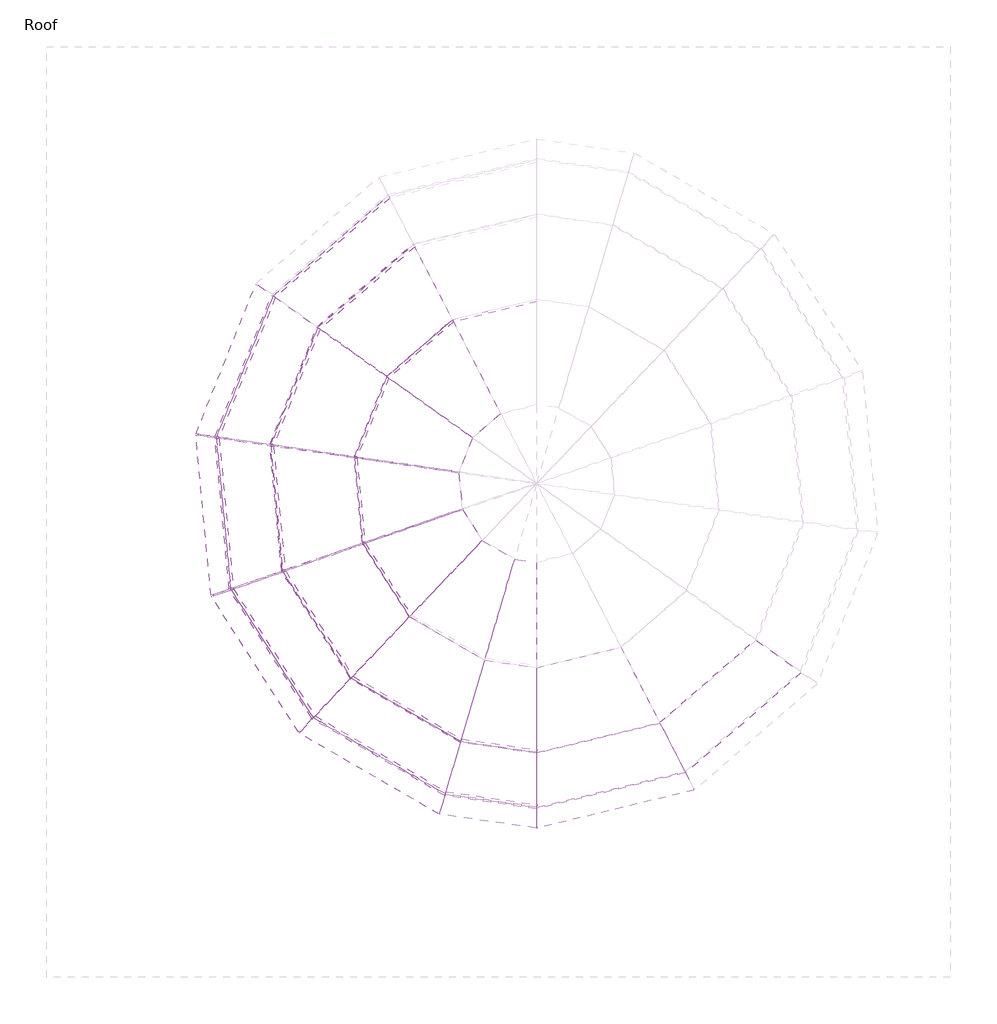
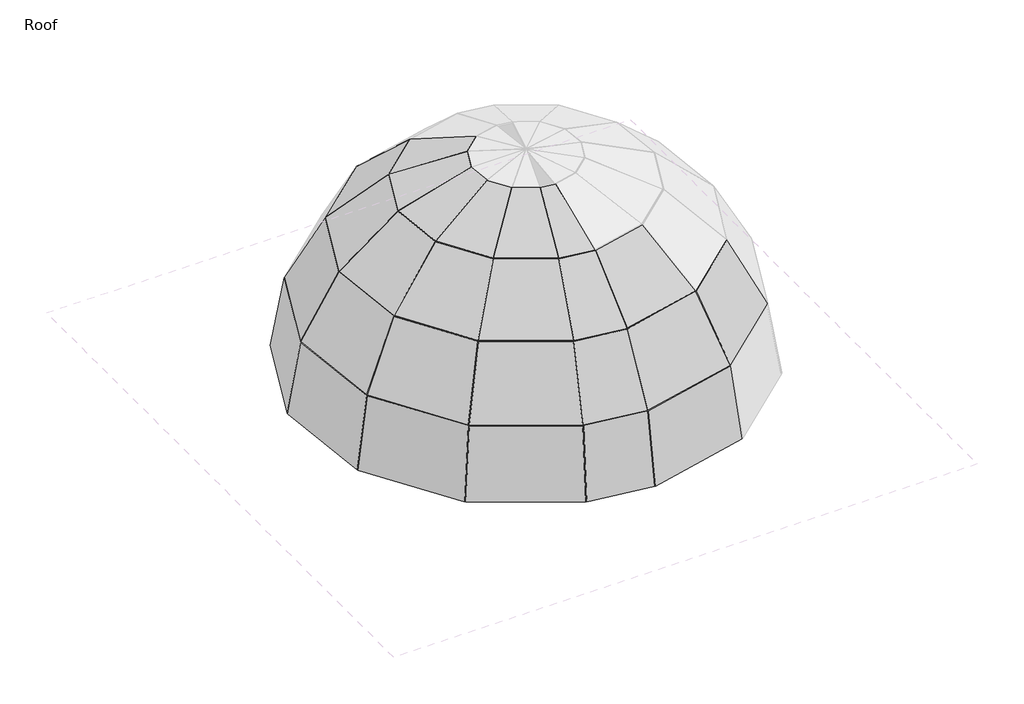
# One storey, part 1 of 2: 26 plates, 25 members.
"""IFC4 building model written with IfcOpenShell, lengths in millimetres."""

from ifc_helpers import new_model, si_unit, origin, place, context, project, spatial, transform, mapped, element, save
from components import member_b50af387, member_3381ad2c, member_b0e9279f, member_8f3ebbc6, member_f3e2dd3c, member_dd61f749, member_f8578e25, member_39e566c8, member_a05d292e, member_28d1bbef, member_8c08257f, member_cce7d90b, member_f72df3a2, member_d7af2e9e, member_262d8d0c, member_3dac9f4a, member_14dca73a, member_459a8277, member_79ecd0d7, member_cf5c4b1b, system_panel_glazed_edfc04ff, system_panel_glazed_745dfbfd, system_panel_glazed_ce843fd4, system_panel_glazed_a0137e14, system_panel_glazed_059680cf, system_panel_glazed_07fdee45, system_panel_glazed_b2bf2ea4, system_panel_glazed_06e87ee0

model = new_model("IFC4")

# Units and contexts
model_context = context("Model", 3, world=origin())
ifc_project = project(units=[si_unit("LENGTHUNIT", "METRE", prefix="MILLI")], contexts=[model_context])

# Site, building, storey
site = spatial("IfcSite", under=ifc_project)
building = spatial("IfcBuilding", under=site)
storey = spatial("IfcBuildingStorey", under=building, Name="Roof", Elevation=15240.0)

# Members
placement = place(None, origin())
member_shape = member_b50af387(model_context)
element("IfcMember", 1, ObjectType="Rectangular Mullion : 1\" Square", at=placement, inside=storey, context=model_context, shape_type="MappedRepresentation", body=[
    mapped(member_shape, transform((-8882.432555, 6542.006192, 22146.744779), x_axis=(0.5570568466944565, -0.643105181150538, 0.525455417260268), y_axis=(-0.34403063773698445, 0.39717290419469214, 0.8508211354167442), z_axis=(-0.755864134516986, -0.654728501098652, 0.0))),
])
member_2_shape = member_3381ad2c(model_context)
element("IfcMember", 2, ObjectType="Rectangular Mullion : 1\" Square", at=placement, inside=storey, context=model_context, shape_type="MappedRepresentation", body=[
    mapped(member_2_shape, transform((-8008.670999, 7298.8572818, 22146.744779), x_axis=(0.20054046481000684, -0.8268495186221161, 0.5254554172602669), y_axis=(-0.12385102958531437, 0.5106508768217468, 0.8508211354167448), z_axis=(-0.9718253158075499, -0.2357022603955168, 0.0))),
])
member_3_shape = member_b0e9279f(model_context)
element("IfcMember", 3, ObjectType="Rectangular Mullion : 1\" Square", at=placement, inside=storey, context=model_context, shape_type="MappedRepresentation", body=[
    mapped(member_3_shape, transform((-6885.263284, 1534.903921, 21126.4036115), x_axis=(0.08912652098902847, 0.6183525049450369, 0.7808307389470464), y_axis=(-0.11139423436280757, -0.7728440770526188, 0.6247426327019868), z_axis=(0.9897715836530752, -0.14266117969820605, 0.0))),
])
member_4_shape = member_8f3ebbc6(model_context)
element("IfcMember", 4, ObjectType="Rectangular Mullion : 1\" Square", at=placement, inside=storey, context=model_context, shape_type="MappedRepresentation", body=[
    mapped(member_4_shape, transform((-7897.4618457, 1680.7976234, 21126.4036115), x_axis=(0.31620138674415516, 0.5468663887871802, 0.7752121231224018), y_axis=(-0.3880366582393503, -0.671104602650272, 0.6317010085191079), z_axis=(0.8657044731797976, -0.5005554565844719, 0.0))),
])
member_5_shape = member_f3e2dd3c(model_context)
element("IfcMember", 5, ObjectType="Rectangular Mullion : 1\" Square", at=placement, inside=storey, context=model_context, shape_type="MappedRepresentation", body=[
    mapped(member_5_shape, transform((-9804.3994436, 7198.8600253, 21126.4036115), x_axis=(0.4135926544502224, -0.4774801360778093, 0.7752121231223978), y_axis=(-0.5075534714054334, 0.5859550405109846, 0.6317010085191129), z_axis=(-0.7558641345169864, -0.6547285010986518, 0.0))),
])
member_6_shape = member_dd61f749(model_context)
element("IfcMember", 6, ObjectType="Rectangular Mullion : 1\" Square", at=placement, inside=storey, context=model_context, shape_type="MappedRepresentation", body=[
    mapped(member_6_shape, transform((-8104.6835984, 976.8878477, 19790.6842649), x_axis=(0.16875243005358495, 0.2918552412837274, 0.941457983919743), y_axis=(-0.4712519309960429, -0.8150243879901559, 0.33713033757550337), z_axis=(0.8657044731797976, -0.500555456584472, 0.0))),
])
member_7_shape = member_f8578e25(model_context)
element("IfcMember", 7, ObjectType="Rectangular Mullion : 1\" Square", at=placement, inside=storey, context=model_context, shape_type="MappedRepresentation", body=[
    mapped(member_7_shape, transform((-10402.01787, 7624.6323161, 19790.6842649), x_axis=(0.22072884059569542, -0.25482473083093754, 0.9414579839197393), y_axis=(-0.6163993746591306, 0.7116143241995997, 0.3371303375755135), z_axis=(-0.7558641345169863, -0.6547285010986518, 0.0))),
])
member_8_shape = member_39e566c8(model_context)
element("IfcMember", 8, ObjectType="Rectangular Mullion : 1\" Square", at=placement, inside=storey, context=model_context, shape_type="MappedRepresentation", body=[
    mapped(member_8_shape, transform((-6885.263284, 801.1261432, 19790.6842649), x_axis=(0.047320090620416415, 0.32830291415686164, 0.9433864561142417), y_axis=(-0.13458462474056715, -0.9337371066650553, 0.33169563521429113), z_axis=(0.989771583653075, -0.14266117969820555, 0.0))),
])
member_9_shape = member_a05d292e(model_context)
element("IfcMember", 9, ObjectType="Rectangular Mullion : 1\" Square", at=placement, inside=storey, context=model_context, shape_type="MappedRepresentation", body=[
    mapped(member_9_shape, transform((-8578.5080475, 3345.3744973, 22146.744779), x_axis=(0.7159976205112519, 0.45961289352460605, 0.52545541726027), y_axis=(-0.44219027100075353, -0.2838505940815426, 0.850821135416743), z_axis=(0.5401991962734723, -0.8415371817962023, 0.0))),
])
member_10_shape = member_28d1bbef(model_context)
element("IfcMember", 10, ObjectType="Rectangular Mullion : 1\" Square", at=placement, inside=storey, context=model_context, shape_type="MappedRepresentation", body=[
    mapped(member_10_shape, transform((-9307.6551666, 5480.7484317, 22146.744779), x_axis=(0.7897828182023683, -0.3164485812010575, 0.525455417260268), y_axis=(-0.4877589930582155, 0.19543428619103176, 0.8508211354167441), z_axis=(-0.37193314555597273, -0.9282595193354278, 0.0))),
])
member_11_shape = member_8c08257f(model_context)
element("IfcMember", 11, ObjectType="Rectangular Mullion : 1\" Square", at=placement, inside=storey, context=model_context, shape_type="MappedRepresentation", body=[
    mapped(member_11_shape, transform((-9360.1721902, 2526.5454127, 21126.4036115), x_axis=(0.5315998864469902, 0.34124437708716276, 0.7752121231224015), y_axis=(-0.6523698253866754, -0.41876896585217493, 0.6317010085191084), z_axis=(0.5401991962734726, -0.8415371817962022, 0.0))),
])
member_12_shape = member_cce7d90b(model_context)
element("IfcMember", 12, ObjectType="Rectangular Mullion : 1\" Square", at=placement, inside=storey, context=model_context, shape_type="MappedRepresentation", body=[
    mapped(member_12_shape, transform((-10428.1010381, 5642.2444096, 21126.4036115), x_axis=(0.5863824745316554, -0.2349505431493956, 0.7752121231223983), y_axis=(-0.7195980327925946, 0.2883270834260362, 0.6317010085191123), z_axis=(-0.37193314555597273, -0.9282595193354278, 0.0))),
])
member_13_shape = member_f72df3a2(model_context)
element("IfcMember", 13, ObjectType="Rectangular Mullion : 1\" Square", at=placement, inside=storey, context=model_context, shape_type="MappedRepresentation", body=[
    mapped(member_13_shape, transform((-9866.8464545, 1995.7808537, 19790.6842649), x_axis=(0.2837077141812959, 0.18211753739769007, 0.941457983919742), y_axis=(-0.7922718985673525, -0.5085748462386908, 0.3371303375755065), z_axis=(0.5401991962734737, -0.8415371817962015, 0.0))),
])
member_14_shape = member_d7af2e9e(model_context)
element("IfcMember", 14, ObjectType="Rectangular Mullion : 1\" Square", at=placement, inside=storey, context=model_context, shape_type="MappedRepresentation", body=[
    mapped(member_14_shape, transform((-11154.3734313, 5746.9260131, 19790.6842649), x_axis=(0.3129444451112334, -0.1253899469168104, 0.9414579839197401), y_axis=(-0.8739173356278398, 0.3501594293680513, 0.3371303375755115), z_axis=(-0.37193314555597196, -0.9282595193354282, 0.0))),
])
member_15_shape = member_262d8d0c(model_context)
element("IfcMember", 15, ObjectType="Rectangular Mullion : 1\" Square", at=placement, inside=storey, context=model_context, shape_type="MappedRepresentation", body=[
    mapped(member_15_shape, transform((-9312.3787176, 5468.9595358, 22146.744779), x_axis=(-0.14266117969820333, -0.9897715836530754, 0.0), y_axis=(-0.38421305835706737, 0.05537872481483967, 0.9215820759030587), z_axis=(-0.912155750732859, 0.1314739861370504, -0.3881835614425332))),
])
member_16_shape = member_3dac9f4a(model_context)
element("IfcMember", 16, ObjectType="Rectangular Mullion : 1\" Square", at=placement, inside=storey, context=model_context, shape_type="MappedRepresentation", body=[
    mapped(member_16_shape, transform((-10432.8245891, 5630.4555138, 21126.4036115), x_axis=(-0.1426611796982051, -0.9897715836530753, 0.0), y_axis=(-0.6626671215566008, 0.0955138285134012, 0.7427983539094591), z_axis=(-0.7352007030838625, 0.10596848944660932, -0.6695152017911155))),
])
element("IfcMember", 17, ObjectType="Rectangular Mullion : 1\" Square", at=placement, inside=storey, context=model_context, shape_type="MappedRepresentation", body=[
    mapped(member_16_shape, transform((-11159.0969822, 5735.1371172, 19790.6842649), x_axis=(-0.14266117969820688, -0.9897715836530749, 0.0), y_axis=(-0.8674915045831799, 0.12503628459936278, 0.4814814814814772), z_axis=(-0.4765566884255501, 0.06868871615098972, -0.8764562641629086))),
])
member_17_shape = member_14dca73a(model_context)
element("IfcMember", 18, ObjectType="Rectangular Mullion : 1\" Square", at=placement, inside=storey, context=model_context, shape_type="MappedRepresentation", body=[
    mapped(member_17_shape, transform((-11410.4989645, 5771.3730568, 18288.0), x_axis=(-0.14266117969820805, -0.9897715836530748, 0.0), y_axis=(-0.9759279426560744, 0.14066582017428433, 0.1666666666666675), z_axis=(-0.164961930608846, 0.023776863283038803, -0.9860132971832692))),
])
member_18_shape = member_459a8277(model_context)
element("IfcMember", 19, ObjectType="Rectangular Mullion : 1\" Square", at=placement, inside=storey, context=model_context, shape_type="MappedRepresentation", body=[
    mapped(member_18_shape, transform((-9204.1679454, 4330.8151109, 22146.744779), x_axis=(0.8470014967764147, 0.08052992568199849, 0.5254554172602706), y_axis=(-0.5230964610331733, -0.04973417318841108, 0.8508211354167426), z_axis=(0.09464965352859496, -0.9955106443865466, 0.0))),
])
member_19_shape = member_79ecd0d7(model_context)
element("IfcMember", 20, ObjectType="Rectangular Mullion : 1\" Square", at=placement, inside=storey, context=model_context, shape_type="MappedRepresentation", body=[
    mapped(member_19_shape, transform((-10274.1048284, 3961.0652384, 21126.4036115), x_axis=(0.6288650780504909, 0.059790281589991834, 0.7752121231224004), y_axis=(-0.7717319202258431, -0.07337355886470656, 0.6317010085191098), z_axis=(0.09464965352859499, -0.9955106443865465, 0.0))),
])
member_20_shape = member_cf5c4b1b(model_context)
element("IfcMember", 21, ObjectType="Rectangular Mullion : 1\" Square", at=placement, inside=storey, context=model_context, shape_type="MappedRepresentation", body=[
    mapped(member_20_shape, transform((-10967.6373232, 3721.3935759, 19790.6842649), x_axis=(0.3356168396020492, 0.0319092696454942, 0.9414579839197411), y_axis=(-0.9372314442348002, -0.08910867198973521, 0.33713033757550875), z_axis=(0.09464965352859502, -0.9955106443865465, 0.0))),
])
element("IfcMember", 22, ObjectType="Rectangular Mullion : 1\" Square", at=placement, inside=storey, context=model_context, shape_type="MappedRepresentation", body=[
    mapped(member_15_shape, transform((-9202.9658948, 4318.1721258, 22146.744779), x_axis=(0.32662703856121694, -0.9451533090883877, 0.0), y_axis=(-0.3668929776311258, -0.12679124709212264, 0.9215820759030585), z_axis=(-0.8710363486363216, -0.30101362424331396, -0.3881835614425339))),
])
element("IfcMember", 23, ObjectType="Rectangular Mullion : 1\" Square", at=placement, inside=storey, context=model_context, shape_type="MappedRepresentation", body=[
    mapped(member_16_shape, transform((-10272.9027778, 3948.4222532, 21126.4036115), x_axis=(0.3266270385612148, -0.9451533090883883, 0.0), y_axis=(-0.6327945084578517, -0.21868176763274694, 0.7427983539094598), z_axis=(-0.7020583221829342, -0.24261802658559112, -0.6695152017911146))),
])
element("IfcMember", 24, ObjectType="Rectangular Mullion : 1\" Square", at=placement, inside=storey, context=model_context, shape_type="MappedRepresentation", body=[
    mapped(member_16_shape, transform((-10966.4352726, 3708.7505907, 19790.6842649), x_axis=(0.3266270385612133, -0.9451533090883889, 0.0), y_axis=(-0.8283855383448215, -0.28627431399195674, 0.48148148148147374), z_axis=(-0.4550738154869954, -0.1572648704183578, -0.8764562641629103))),
])
element("IfcMember", 25, ObjectType="Rectangular Mullion : 1\" Square", at=placement, inside=storey, context=model_context, shape_type="MappedRepresentation", body=[
    mapped(member_17_shape, transform((-11206.5042132, 3625.7873229, 18288.0), x_axis=(0.3266270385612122, -0.9451533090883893, 0.0), y_axis=(-0.9319337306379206, -0.3220586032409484, 0.1666666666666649), z_axis=(-0.1575255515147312, -0.05443783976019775, -0.9860132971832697))),
])

# Plates
system_panel_glazed_shape = system_panel_glazed_edfc04ff(model_context)
element("IfcPlate", 26, ObjectType="System Panel : Glazed", at=placement, inside=storey, context=model_context, shape_type="MappedRepresentation", body=[
    mapped(system_panel_glazed_shape, transform((-5837.9944551, 801.1261432, 18288.0), x_axis=(0.9718253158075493, 0.2357022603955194, 0.0), y_axis=(-0.23258509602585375, 0.958972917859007, -0.16209600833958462), z_axis=(-0.038206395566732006, 0.15752900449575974, 0.9867749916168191))),
])
element("IfcPlate", 27, ObjectType="System Panel : Glazed", at=placement, inside=storey, context=model_context, shape_type="MappedRepresentation", body=[
    mapped(system_panel_glazed_shape, transform((-11009.6923756, 6771.6940445, 18288.0), x_axis=(-0.37193314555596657, -0.9282595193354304, 0.0), y_axis=(0.9159832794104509, -0.36701432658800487, -0.16209600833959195), z_axis=(0.15046716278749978, -0.06028887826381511, 0.9867749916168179))),
])
element("IfcPlate", 28, ObjectType="System Panel : Glazed", at=placement, inside=storey, context=model_context, shape_type="MappedRepresentation", body=[
    mapped(system_panel_glazed_shape, transform((-11308.5015888, 4698.5801899, 18288.0), x_axis=(0.09464965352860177, -0.9955106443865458, 0.0), y_axis=(0.9823450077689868, 0.09339791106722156, -0.1620960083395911), z_axis=(0.1613683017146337, 0.015342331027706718, 0.986774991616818))),
])
element("IfcPlate", 29, ObjectType="System Panel : Glazed", at=placement, inside=storey, context=model_context, shape_type="MappedRepresentation", body=[
    mapped(system_panel_glazed_shape, transform((-10624.3689565, 2718.9209916, 18288.0), x_axis=(0.5401991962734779, -0.8415371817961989, 0.0), y_axis=(0.8304078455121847, 0.5330550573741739, -0.16209600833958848), z_axis=(0.13640981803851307, 0.08756413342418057, 0.9867749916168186))),
])
element("IfcPlate", 30, ObjectType="System Panel : Glazed", at=placement, inside=storey, context=model_context, shape_type="MappedRepresentation", body=[
    mapped(system_panel_glazed_shape, transform((-9109.3239525, 1272.6407159, 18288.0), x_axis=(0.8657044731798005, -0.5005554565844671, 0.0), y_axis=(0.49393560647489, 0.85425552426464, -0.16209600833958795), z_axis=(0.08113804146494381, 0.14032723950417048, 0.9867749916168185))),
])
system_panel_glazed_2_shape = system_panel_glazed_745dfbfd(model_context)
element("IfcPlate", 31, ObjectType="System Panel : Glazed", at=placement, inside=storey, context=model_context, shape_type="MappedRepresentation", body=[
    mapped(system_panel_glazed_2_shape, transform((-7530.8387446, 640.1764574, 18288.0), x_axis=(0.9897715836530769, -0.14266117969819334, 0.0), y_axis=(0.14070559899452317, 0.9762039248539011, -0.1650085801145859), z_axis=(0.023540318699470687, 0.16332080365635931, 0.9862921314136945))),
])
system_panel_glazed_3_shape = system_panel_glazed_ce843fd4(model_context)
element("IfcPlate", 32, ObjectType="System Panel : Glazed", at=placement, inside=storey, context=model_context, shape_type="MappedRepresentation", body=[
    mapped(system_panel_glazed_3_shape, transform((-5896.1760567, 1041.0150321, 19790.6842649), x_axis=(0.9718253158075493, 0.2357022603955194, 0.0), y_axis=(-0.20792601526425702, 0.8573009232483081, -0.4709584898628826), z_axis=(-0.11100598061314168, 0.45768938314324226, 0.8821553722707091))),
])
element("IfcPlate", 33, ObjectType="System Panel : Glazed", at=placement, inside=storey, context=model_context, shape_type="MappedRepresentation", body=[
    mapped(system_panel_glazed_3_shape, transform((-4137.7987637, 1947.2619457, 19790.6842649), x_axis=(0.755864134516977, 0.6547285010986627, 0.0), y_axis=(-0.5775722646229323, 0.6667896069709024, -0.470958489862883), z_axis=(-0.3083499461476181, 0.35598063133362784, 0.8821553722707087))),
])
element("IfcPlate", 34, ObjectType="System Panel : Glazed", at=placement, inside=storey, context=model_context, shape_type="MappedRepresentation", body=[
    mapped(system_panel_glazed_3_shape, transform((-10780.5574261, 6679.8847166, 19790.6842649), x_axis=(-0.3719331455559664, -0.9282595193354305, 0.0), y_axis=(0.8188691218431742, -0.32810282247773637, -0.4709584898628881), z_axis=(0.43717170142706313, -0.1751650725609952, 0.8821553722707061))),
])
element("IfcPlate", 35, ObjectType="System Panel : Glazed", at=placement, inside=storey, context=model_context, shape_type="MappedRepresentation", body=[
    mapped(system_panel_glazed_3_shape, transform((-11062.7661274, 4721.9438539, 19790.6842649), x_axis=(0.09464965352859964, -0.995510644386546, 0.0), y_axis=(0.878195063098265, 0.08349570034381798, -0.47095848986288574), z_axis=(0.46884418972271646, 0.04457605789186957, 0.8821553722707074))),
])
element("IfcPlate", 36, ObjectType="System Panel : Glazed", at=placement, inside=storey, context=model_context, shape_type="MappedRepresentation", body=[
    mapped(system_panel_glazed_3_shape, transform((-10416.6408636, 2852.2657222, 19790.6842649), x_axis=(0.5401991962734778, -0.8415371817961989, 0.0), y_axis=(0.7423665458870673, 0.4765396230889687, -0.47095848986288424), z_axis=(0.3963290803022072, 0.254411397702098, 0.8821553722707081))),
])
element("IfcPlate", 37, ObjectType="System Panel : Glazed", at=placement, inside=storey, context=model_context, shape_type="MappedRepresentation", body=[
    mapped(system_panel_glazed_3_shape, transform((-8985.7650265, 1486.3343507, 19790.6842649), x_axis=(0.8657044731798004, -0.500555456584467, 0.0), y_axis=(0.4415676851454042, 0.7636858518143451, -0.4709584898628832), z_axis=(0.23574084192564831, 0.40771087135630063, 0.8821553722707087))),
])
system_panel_glazed_4_shape = system_panel_glazed_a0137e14(model_context)
element("IfcPlate", 38, ObjectType="System Panel : Glazed", at=placement, inside=storey, context=model_context, shape_type="MappedRepresentation", body=[
    mapped(system_panel_glazed_4_shape, transform((-7494.9734412, 889.0069955, 19790.6842649), x_axis=(0.9897715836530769, -0.1426611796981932, 0.0), y_axis=(0.12533230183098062, 0.8695452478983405, -0.477684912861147), z_axis=(0.06814709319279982, 0.4727989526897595, 0.8785312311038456))),
])
system_panel_glazed_5_shape = system_panel_glazed_059680cf(model_context)
element("IfcPlate", 39, ObjectType="System Panel : Glazed", at=placement, inside=storey, context=model_context, shape_type="MappedRepresentation", body=[
    mapped(system_panel_glazed_5_shape, transform((-6064.2562391, 1734.0273778, 21126.4036115), x_axis=(0.9718253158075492, 0.23570226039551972, 0.0), y_axis=(-0.1602819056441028, 0.6608592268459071, -0.7331949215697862), z_axis=(-0.17281570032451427, 0.7125373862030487, 0.680018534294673))),
])
element("IfcPlate", 40, ObjectType="System Panel : Glazed", at=placement, inside=storey, context=model_context, shape_type="MappedRepresentation", body=[
    mapped(system_panel_glazed_5_shape, transform((-9165.8384087, 7751.9807386, 21126.4036115), x_axis=(-0.7558641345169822, -0.6547285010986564, 0.0), y_axis=(0.4452275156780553, -0.5140016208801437, -0.7331949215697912), z_axis=(0.48004361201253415, -0.5541957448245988, 0.6800185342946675))),
])
element("IfcPlate", 41, ObjectType="System Panel : Glazed", at=placement, inside=storey, context=model_context, shape_type="MappedRepresentation", body=[
    mapped(system_panel_glazed_5_shape, transform((-10118.6120163, 6414.6577695, 21126.4036115), x_axis=(-0.3719331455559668, -0.9282595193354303, 0.0), y_axis=(0.6312336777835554, -0.2529214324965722, -0.7331949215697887), z_axis=(0.6805951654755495, -0.2726994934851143, 0.6800185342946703))),
])
element("IfcPlate", 42, ObjectType="System Panel : Glazed", at=placement, inside=storey, context=model_context, shape_type="MappedRepresentation", body=[
    mapped(system_panel_glazed_5_shape, transform((-10352.8636834, 4789.4388835, 21126.4036115), x_axis=(0.09464965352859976, -0.995510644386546, 0.0), y_axis=(0.6769656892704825, 0.06436351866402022, -0.7331949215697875), z_axis=(0.7299033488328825, 0.06939664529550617, 0.6800185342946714))),
])
element("IfcPlate", 43, ObjectType="System Panel : Glazed", at=placement, inside=storey, context=model_context, shape_type="MappedRepresentation", body=[
    mapped(system_panel_glazed_5_shape, transform((-9816.537484, 3237.483833, 21126.4036115), x_axis=(0.5401991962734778, -0.841537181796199, 0.0), y_axis=(0.5722608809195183, 0.367345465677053, -0.7331949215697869), z_axis=(0.6170107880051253, 0.39607130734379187, 0.6800185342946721))),
])
element("IfcPlate", 44, ObjectType="System Panel : Glazed", at=placement, inside=storey, context=model_context, shape_type="MappedRepresentation", body=[
    mapped(system_panel_glazed_5_shape, transform((-8628.8170179, 2103.6715181, 21126.4036115), x_axis=(0.8657044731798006, -0.5005554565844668, 0.0), y_axis=(0.34038698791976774, 0.588695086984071, -0.7331949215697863), z_axis=(0.3670047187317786, 0.6347301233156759, 0.6800185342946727))),
])
system_panel_glazed_6_shape = system_panel_glazed_07fdee45(model_context)
element("IfcPlate", 45, ObjectType="System Panel : Glazed", at=placement, inside=storey, context=model_context, shape_type="MappedRepresentation", body=[
    mapped(system_panel_glazed_6_shape, transform((-7391.3625648, 1607.8507722, 21126.4036115), x_axis=(0.9897715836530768, -0.14266117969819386, 0.0), y_axis=(0.09605466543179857, 0.666419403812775, -0.7393636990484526), z_axis=(0.10547849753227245, 0.7318011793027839, 0.6733062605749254))),
])
system_panel_glazed_7_shape = system_panel_glazed_b2bf2ea4(model_context)
element("IfcPlate", 46, ObjectType="System Panel : Glazed", at=placement, inside=storey, context=model_context, shape_type="MappedRepresentation", body=[
    mapped(system_panel_glazed_7_shape, transform((-8445.551777, 6920.4317369, 22146.744779), x_axis=(-0.7558641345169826, -0.6547285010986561, 0.0), y_axis=(0.2603717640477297, -0.30059127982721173, -0.9175246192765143), z_axis=(0.6007295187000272, -0.6935239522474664, 0.39767898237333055))),
])
element("IfcPlate", 47, ObjectType="System Panel : Glazed", at=placement, inside=storey, context=model_context, shape_type="MappedRepresentation", body=[
    mapped(system_panel_glazed_7_shape, transform((-9097.4056363, 6005.4828639, 22146.744779), x_axis=(-0.37193314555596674, -0.9282595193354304, 0.0), y_axis=(0.36914930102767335, -0.1479099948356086, -0.9175246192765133), z_axis=(0.8517009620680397, -0.3412578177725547, 0.39767898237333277))),
])
element("IfcPlate", 48, ObjectType="System Panel : Glazed", at=placement, inside=storey, context=model_context, shape_type="MappedRepresentation", body=[
    mapped(system_panel_glazed_7_shape, transform((-9257.6723062, 4893.5658308, 22146.744779), x_axis=(0.09464965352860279, -0.9955106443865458, 0.0), y_axis=(0.3958936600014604, 0.03764017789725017, -0.9175246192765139), z_axis=(0.9134055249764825, 0.08684338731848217, 0.39767898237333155))),
])
element("IfcPlate", 49, ObjectType="System Panel : Glazed", at=placement, inside=storey, context=model_context, shape_type="MappedRepresentation", body=[
    mapped(system_panel_glazed_7_shape, transform((-8890.7369712, 3831.7733115, 22146.744779), x_axis=(0.5401991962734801, -0.8415371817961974, 0.0), y_axis=(0.3346616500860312, 0.21482586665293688, -0.9175246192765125), z_axis=(0.7721310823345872, 0.4956460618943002, 0.3976789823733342))),
])
element("IfcPlate", 50, ObjectType="System Panel : Glazed", at=placement, inside=storey, context=model_context, shape_type="MappedRepresentation", body=[
    mapped(system_panel_glazed_7_shape, transform((-8078.1408168, 3056.0591993, 22146.744779), x_axis=(0.8657044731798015, -0.5005554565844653, 0.0), y_axis=(0.19906038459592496, 0.3442724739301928, -0.9175246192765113), z_axis=(0.45927195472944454, 0.7943051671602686, 0.397678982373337))),
])
system_panel_glazed_8_shape = system_panel_glazed_06e87ee0(model_context)
element("IfcPlate", 51, ObjectType="System Panel : Glazed", at=placement, inside=storey, context=model_context, shape_type="MappedRepresentation", body=[
    mapped(system_panel_glazed_8_shape, transform((-7231.518435, 2716.8362569, 22146.744779), x_axis=(0.9897715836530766, -0.14266117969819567, 0.0), y_axis=(0.05586364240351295, 0.38757737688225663, -0.9201429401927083), z_axis=(0.13126867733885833, 0.9107313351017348, 0.3915826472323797))),
])

save(model, "model.ifc")
